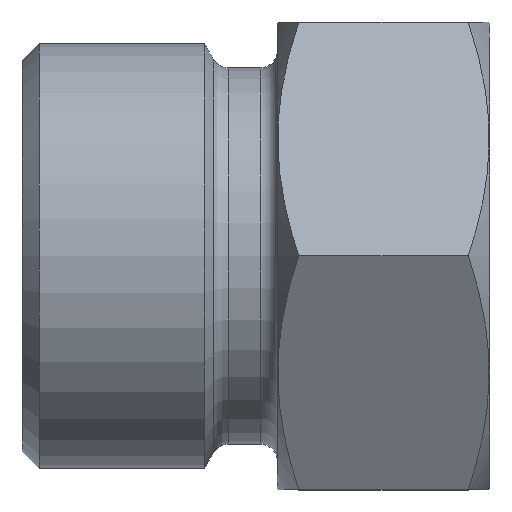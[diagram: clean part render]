
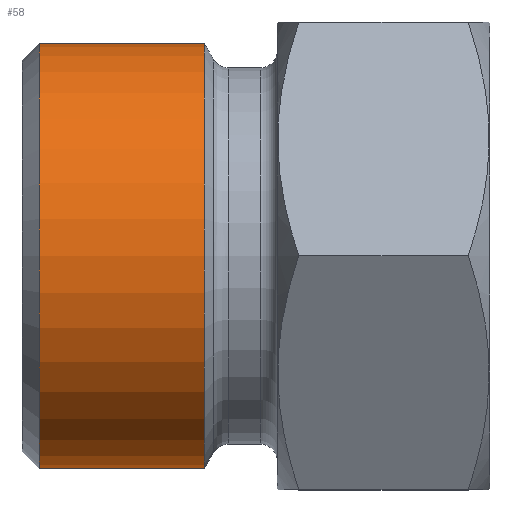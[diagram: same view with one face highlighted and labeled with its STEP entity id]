
A CAD part, top view. The second image highlights one B-rep face of the part: STEP entity #58.
In plain terms, the highlighted cylindrical face has radius 10 mm (diameter 20 mm), a full revolution.
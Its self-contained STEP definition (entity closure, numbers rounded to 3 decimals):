
#58 = ADVANCED_FACE( '', ( #128, #129 ), #130, .T. );
#128 = FACE_OUTER_BOUND( '', #216, .T. );
#129 = FACE_OUTER_BOUND( '', #217, .T. );
#130 = CYLINDRICAL_SURFACE( '', #218, 10. );
#216 = EDGE_LOOP( '', ( #316 ) );
#217 = EDGE_LOOP( '', ( #317 ) );
#218 = AXIS2_PLACEMENT_3D( '', #318, #319, #320 );
#316 = ORIENTED_EDGE( '', *, *, #449, .T. );
#317 = ORIENTED_EDGE( '', *, *, #430, .T. );
#318 = CARTESIAN_POINT( '', ( -60., 0., 0. ) );
#319 = DIRECTION( '', ( 1., 0., 0. ) );
#320 = DIRECTION( '', ( 0., 0., 1. ) );
#430 = EDGE_CURVE( '', #485, #485, #486, .T. );
#449 = EDGE_CURVE( '', #516, #516, #517, .T. );
#485 = VERTEX_POINT( '', #565 );
#486 = CIRCLE( '', #566, 10. );
#516 = VERTEX_POINT( '', #643 );
#517 = CIRCLE( '', #644, 10. );
#565 = CARTESIAN_POINT( '', ( -13.433, 0., 10. ) );
#566 = AXIS2_PLACEMENT_3D( '', #782, #783, #784 );
#643 = CARTESIAN_POINT( '', ( -21.2, 0., -10. ) );
#644 = AXIS2_PLACEMENT_3D( '', #803, #804, #805 );
#782 = CARTESIAN_POINT( '', ( -13.433, 0., 0. ) );
#783 = DIRECTION( '', ( -1., 0., 0. ) );
#784 = DIRECTION( '', ( 0., 0., 1. ) );
#803 = CARTESIAN_POINT( '', ( -21.2, 0., 0. ) );
#804 = DIRECTION( '', ( 1., 0., 0. ) );
#805 = DIRECTION( '', ( 0., 0., -1. ) );
